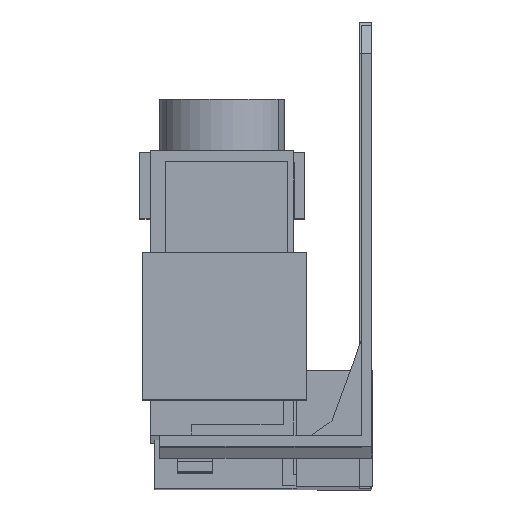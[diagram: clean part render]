
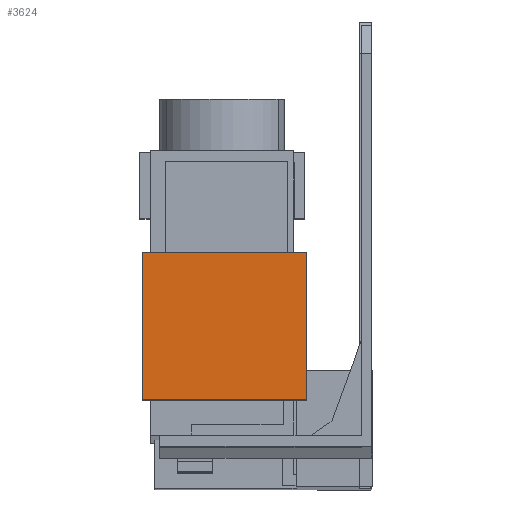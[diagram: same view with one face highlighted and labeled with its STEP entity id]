
A CAD part, front view. The second image highlights one B-rep face of the part: STEP entity #3624.
In plain terms, the highlighted planar face has unit normal (0, -1, 0.003).
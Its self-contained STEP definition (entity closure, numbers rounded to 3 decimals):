
#677 = ORIENTED_EDGE ( 'NONE', *, *, #2547, .T. ) ;
#678 = ORIENTED_EDGE ( 'NONE', *, *, #2205, .F. ) ;
#679 = ORIENTED_EDGE ( 'NONE', *, *, #2323, .F. ) ;
#680 = ORIENTED_EDGE ( 'NONE', *, *, #2417, .T. ) ;
#1230 = AXIS2_PLACEMENT_3D ( 'NONE', #7470, #7476, #7477 ) ;
#2205 = EDGE_CURVE ( 'NONE', #2807, #2798, #4377, .T. ) ;
#2323 = EDGE_CURVE ( 'NONE', #2798, #2797, #4587, .T. ) ;
#2417 = EDGE_CURVE ( 'NONE', #3440, #2797, #4755, .T. ) ;
#2547 = EDGE_CURVE ( 'NONE', #2807, #3440, #6197, .T. ) ;
#2797 = VERTEX_POINT ( 'NONE', #5853 ) ;
#2798 = VERTEX_POINT ( 'NONE', #5859 ) ;
#2807 = VERTEX_POINT ( 'NONE', #5865 ) ;
#3440 = VERTEX_POINT ( 'NONE', #6817 ) ;
#3624 = ADVANCED_FACE ( 'NONE', ( #6534 ), #7467, .T. ) ;
#3759 = EDGE_LOOP ( 'NONE', ( #680, #679, #678, #677 ) ) ;
#4377 = LINE ( 'NONE', #5062, #4378 ) ;
#4378 = VECTOR ( 'NONE', #5063, 1000. ) ;
#4583 = VECTOR ( 'NONE', #5327, 1000. ) ;
#4587 = LINE ( 'NONE', #5318, #4583 ) ;
#4755 = LINE ( 'NONE', #5533, #4756 ) ;
#4756 = VECTOR ( 'NONE', #5534, 1000. ) ;
#5062 = CARTESIAN_POINT ( 'NONE',  ( -9.3, -31.509, -40.315 ) ) ;
#5063 = DIRECTION ( 'NONE',  ( -1., 0., 0. ) ) ;
#5318 = CARTESIAN_POINT ( 'NONE',  ( -32.7, -31.509, -40.315 ) ) ;
#5327 = DIRECTION ( 'NONE',  ( 0., 0.003, 1. ) ) ;
#5533 = CARTESIAN_POINT ( 'NONE',  ( -9.3, -31.452, -19.316 ) ) ;
#5534 = DIRECTION ( 'NONE',  ( -1., 0., 0. ) ) ;
#5817 = CARTESIAN_POINT ( 'NONE',  ( -9.3, -31.509, -40.315 ) ) ;
#5818 = DIRECTION ( 'NONE',  ( 0., 0.003, 1. ) ) ;
#5853 = CARTESIAN_POINT ( 'NONE',  ( -32.7, -31.452, -19.316 ) ) ;
#5859 = CARTESIAN_POINT ( 'NONE',  ( -32.7, -31.509, -40.315 ) ) ;
#5865 = CARTESIAN_POINT ( 'NONE',  ( -9.3, -31.509, -40.315 ) ) ;
#6197 = LINE ( 'NONE', #5817, #6198 ) ;
#6198 = VECTOR ( 'NONE', #5818, 1000. ) ;
#6534 = FACE_OUTER_BOUND ( 'NONE', #3759, .T. ) ;
#6817 = CARTESIAN_POINT ( 'NONE',  ( -9.3, -31.452, -19.316 ) ) ;
#7467 = PLANE ( 'NONE',  #1230 ) ;
#7470 = CARTESIAN_POINT ( 'NONE',  ( -9.3, -31.509, -40.315 ) ) ;
#7476 = DIRECTION ( 'NONE',  ( 0., -1., 0.003 ) ) ;
#7477 = DIRECTION ( 'NONE',  ( 1., 0., 0. ) ) ;
